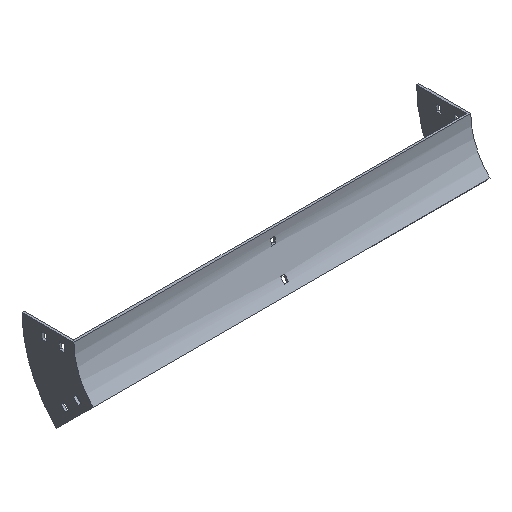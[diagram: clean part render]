
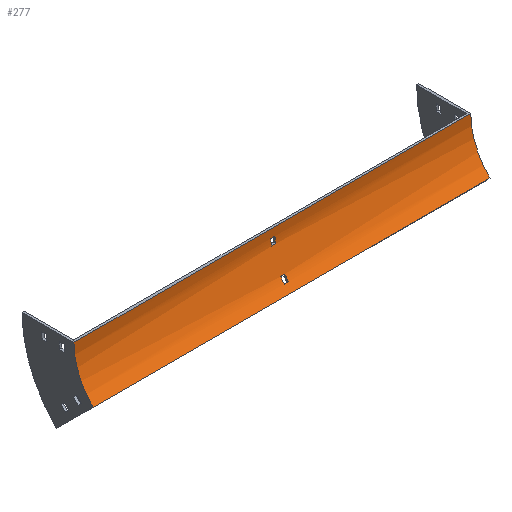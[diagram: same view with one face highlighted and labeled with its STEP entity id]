
A CAD part, isometric view. The second image highlights one B-rep face of the part: STEP entity #277.
In plain terms, the highlighted cylindrical face has radius 100 mm (diameter 200 mm), a partial arc.
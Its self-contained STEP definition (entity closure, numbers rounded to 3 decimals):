
#4 = CARTESIAN_POINT ( 'NONE',  ( -302., -29.289, -70.711 ) ) ;
#6 = ORIENTED_EDGE ( 'NONE', *, *, #676, .T. ) ;
#7 = ORIENTED_EDGE ( 'NONE', *, *, #1344, .F. ) ;
#21 = CARTESIAN_POINT ( 'NONE',  ( -3.25, -2.23, -21. ) ) ;
#22 = EDGE_CURVE ( 'NONE', #347, #362, #733, .T. ) ;
#121 = VECTOR ( 'NONE', #1283, 1000. ) ;
#123 = AXIS2_PLACEMENT_3D ( 'NONE', #184, #1209, #1616 ) ;
#138 = ORIENTED_EDGE ( 'NONE', *, *, #1086, .F. ) ;
#150 = CARTESIAN_POINT ( 'NONE',  ( 302., 0., 0. ) ) ;
#165 = EDGE_CURVE ( 'NONE', #1211, #374, #813, .T. ) ;
#184 = CARTESIAN_POINT ( 'NONE',  ( -3.25, -100., 0. ) ) ;
#188 = EDGE_CURVE ( 'NONE', #1331, #374, #447, .T. ) ;
#200 = DIRECTION ( 'NONE',  ( 0., 0., -1. ) ) ;
#216 = VECTOR ( 'NONE', #969, 1000. ) ;
#225 = AXIS2_PLACEMENT_3D ( 'NONE', #366, #1033, #1546 ) ;
#230 = CARTESIAN_POINT ( 'NONE',  ( -3.25, -16.017, -54.285 ) ) ;
#254 = FACE_BOUND ( 'NONE', #438, .T. ) ;
#277 = ADVANCED_FACE ( 'NONE', ( #1690, #254, #370 ), #1386, .F. ) ;
#283 = VERTEX_POINT ( 'NONE', #496 ) ;
#301 = CARTESIAN_POINT ( 'NONE',  ( 3.25, -100., 0. ) ) ;
#331 = CARTESIAN_POINT ( 'NONE',  ( -3.25, -100., 0. ) ) ;
#341 = CIRCLE ( 'NONE', #123, 100. ) ;
#347 = VERTEX_POINT ( 'NONE', #230 ) ;
#351 = DIRECTION ( 'NONE',  ( -1., 0., 0. ) ) ;
#356 = VECTOR ( 'NONE', #1098, 1000. ) ;
#362 = VERTEX_POINT ( 'NONE', #533 ) ;
#366 = CARTESIAN_POINT ( 'NONE',  ( 3.25, -100., 0. ) ) ;
#370 = FACE_BOUND ( 'NONE', #783, .T. ) ;
#374 = VERTEX_POINT ( 'NONE', #4 ) ;
#403 = VERTEX_POINT ( 'NONE', #150 ) ;
#423 = CIRCLE ( 'NONE', #1570, 100. ) ;
#438 = EDGE_LOOP ( 'NONE', ( #1239, #1404, #512, #6 ) ) ;
#447 = LINE ( 'NONE', #712, #818 ) ;
#469 = VERTEX_POINT ( 'NONE', #1584 ) ;
#471 = ORIENTED_EDGE ( 'NONE', *, *, #1100, .F. ) ;
#496 = CARTESIAN_POINT ( 'NONE',  ( 3.25, -2.23, -21. ) ) ;
#512 = ORIENTED_EDGE ( 'NONE', *, *, #839, .T. ) ;
#533 = CARTESIAN_POINT ( 'NONE',  ( -3.25, -21.315, -61.714 ) ) ;
#575 = VERTEX_POINT ( 'NONE', #959 ) ;
#579 = VERTEX_POINT ( 'NONE', #21 ) ;
#584 = ORIENTED_EDGE ( 'NONE', *, *, #1518, .F. ) ;
#608 = CARTESIAN_POINT ( 'NONE',  ( 302., -0.723, -12. ) ) ;
#617 = CARTESIAN_POINT ( 'NONE',  ( 302., 0., 0. ) ) ;
#623 = VERTEX_POINT ( 'NONE', #812 ) ;
#628 = CARTESIAN_POINT ( 'NONE',  ( -3.25, -0.723, -12. ) ) ;
#653 = CARTESIAN_POINT ( 'NONE',  ( 302., -100., 0. ) ) ;
#676 = EDGE_CURVE ( 'NONE', #623, #283, #1330, .T. ) ;
#712 = CARTESIAN_POINT ( 'NONE',  ( 302., -29.289, -70.711 ) ) ;
#719 = CARTESIAN_POINT ( 'NONE',  ( -302., -100., 0. ) ) ;
#725 = AXIS2_PLACEMENT_3D ( 'NONE', #719, #848, #1108 ) ;
#733 = CIRCLE ( 'NONE', #1258, 100. ) ;
#742 = LINE ( 'NONE', #617, #997 ) ;
#754 = LINE ( 'NONE', #608, #121 ) ;
#758 = AXIS2_PLACEMENT_3D ( 'NONE', #769, #1297, #1668 ) ;
#762 = ORIENTED_EDGE ( 'NONE', *, *, #829, .T. ) ;
#769 = CARTESIAN_POINT ( 'NONE',  ( 302., -100., 0. ) ) ;
#783 = EDGE_LOOP ( 'NONE', ( #897, #584, #471, #7 ) ) ;
#812 = CARTESIAN_POINT ( 'NONE',  ( 3.25, -0.723, -12. ) ) ;
#813 = CIRCLE ( 'NONE', #725, 100. ) ;
#818 = VECTOR ( 'NONE', #1493, 1000. ) ;
#820 = DIRECTION ( 'NONE',  ( -1., 0., 0. ) ) ;
#829 = EDGE_CURVE ( 'NONE', #403, #1211, #742, .T. ) ;
#839 = EDGE_CURVE ( 'NONE', #1032, #623, #754, .T. ) ;
#848 = DIRECTION ( 'NONE',  ( -1., 0., 0. ) ) ;
#877 = LINE ( 'NONE', #1256, #1287 ) ;
#897 = ORIENTED_EDGE ( 'NONE', *, *, #22, .F. ) ;
#941 = ORIENTED_EDGE ( 'NONE', *, *, #165, .T. ) ;
#959 = CARTESIAN_POINT ( 'NONE',  ( 3.25, -21.315, -61.714 ) ) ;
#969 = DIRECTION ( 'NONE',  ( -1., 0., 0. ) ) ;
#996 = CARTESIAN_POINT ( 'NONE',  ( 302., -29.289, -70.711 ) ) ;
#997 = VECTOR ( 'NONE', #351, 1000. ) ;
#1032 = VERTEX_POINT ( 'NONE', #628 ) ;
#1033 = DIRECTION ( 'NONE',  ( 1., 0., 0. ) ) ;
#1060 = CARTESIAN_POINT ( 'NONE',  ( -302., 0., 0. ) ) ;
#1071 = ORIENTED_EDGE ( 'NONE', *, *, #188, .F. ) ;
#1082 = DIRECTION ( 'NONE',  ( 0., 0., -1. ) ) ;
#1086 = EDGE_CURVE ( 'NONE', #403, #1331, #423, .T. ) ;
#1098 = DIRECTION ( 'NONE',  ( -1., 0., 0. ) ) ;
#1100 = EDGE_CURVE ( 'NONE', #575, #469, #1260, .T. ) ;
#1107 = LINE ( 'NONE', #1632, #216 ) ;
#1108 = DIRECTION ( 'NONE',  ( 0., 0., 1. ) ) ;
#1179 = DIRECTION ( 'NONE',  ( -1., 0., 0. ) ) ;
#1209 = DIRECTION ( 'NONE',  ( 1., 0., 0. ) ) ;
#1211 = VERTEX_POINT ( 'NONE', #1060 ) ;
#1239 = ORIENTED_EDGE ( 'NONE', *, *, #1566, .T. ) ;
#1256 = CARTESIAN_POINT ( 'NONE',  ( 302., -21.315, -61.714 ) ) ;
#1258 = AXIS2_PLACEMENT_3D ( 'NONE', #331, #1388, #200 ) ;
#1260 = CIRCLE ( 'NONE', #225, 100. ) ;
#1283 = DIRECTION ( 'NONE',  ( 1., 0., 0. ) ) ;
#1287 = VECTOR ( 'NONE', #1365, 1000. ) ;
#1297 = DIRECTION ( 'NONE',  ( -1., 0., 0. ) ) ;
#1320 = DIRECTION ( 'NONE',  ( 0., 0., 1. ) ) ;
#1327 = EDGE_LOOP ( 'NONE', ( #941, #1071, #138, #762 ) ) ;
#1330 = CIRCLE ( 'NONE', #1355, 100. ) ;
#1331 = VERTEX_POINT ( 'NONE', #996 ) ;
#1344 = EDGE_CURVE ( 'NONE', #362, #575, #877, .T. ) ;
#1355 = AXIS2_PLACEMENT_3D ( 'NONE', #301, #820, #1082 ) ;
#1365 = DIRECTION ( 'NONE',  ( 1., 0., 0. ) ) ;
#1386 = CYLINDRICAL_SURFACE ( 'NONE', #758, 100. ) ;
#1388 = DIRECTION ( 'NONE',  ( -1., 0., 0. ) ) ;
#1404 = ORIENTED_EDGE ( 'NONE', *, *, #1624, .T. ) ;
#1476 = CARTESIAN_POINT ( 'NONE',  ( 302., -2.23, -21. ) ) ;
#1493 = DIRECTION ( 'NONE',  ( -1., 0., 0. ) ) ;
#1518 = EDGE_CURVE ( 'NONE', #469, #347, #1107, .T. ) ;
#1546 = DIRECTION ( 'NONE',  ( 0., 0., 1. ) ) ;
#1566 = EDGE_CURVE ( 'NONE', #283, #579, #1622, .T. ) ;
#1570 = AXIS2_PLACEMENT_3D ( 'NONE', #653, #1179, #1320 ) ;
#1584 = CARTESIAN_POINT ( 'NONE',  ( 3.25, -16.017, -54.285 ) ) ;
#1616 = DIRECTION ( 'NONE',  ( 0., 0., 1. ) ) ;
#1622 = LINE ( 'NONE', #1476, #356 ) ;
#1624 = EDGE_CURVE ( 'NONE', #579, #1032, #341, .T. ) ;
#1632 = CARTESIAN_POINT ( 'NONE',  ( 302., -16.017, -54.285 ) ) ;
#1668 = DIRECTION ( 'NONE',  ( 0., 0., 1. ) ) ;
#1690 = FACE_OUTER_BOUND ( 'NONE', #1327, .T. ) ;
